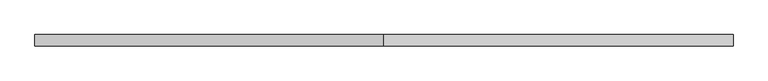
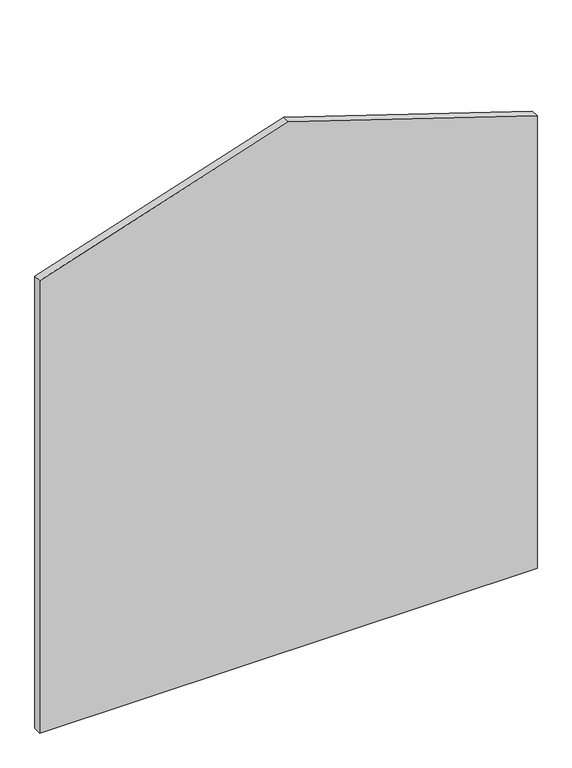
"""IFC4 building model written with IfcOpenShell, lengths in millimetres: plate geometry, Системная панель : ADSK_Cтеклопакет_25 мм."""

from ifc_helpers import new_model, si_unit, frame, origin, place, context, project, spatial, polyline, outline, extrude, source, transform, mapped, element, save


def plate_c8260542(model_context):
    return source(origin(), model_context, "Body", "SweptSolid", [
        extrude(outline(polyline([(0.0, -775.0227682), (0.0, 775.0227682), (1490.2662259, 775.0227682), (1742.0994852, -0.040308), (1490.2924196, -775.0227682), (0.0, -775.0227682)])), frame((0.0, -12.5, 0.0), z_axis=(0.0, 1.0, 0.0), x_axis=(0.0, 0.0, 1.0)), (0.0, 0.0, 1.0), 25.0),
    ])


if __name__ == "__main__":
    model = new_model("IFC4")
    model_context = context("Model", 3, world=origin())
    ifc_project = project(units=[si_unit("LENGTHUNIT", "METRE", prefix="MILLI")], contexts=[model_context])
    site = spatial("IfcSite", under=ifc_project)
    building = spatial("IfcBuilding", under=site)
    placement = place(None, origin())
    plate_shape = plate_c8260542(model_context)
    element("IfcPlate", 1, ObjectType="Системная панель : ADSK_Cтеклопакет_25 мм", at=placement, inside=building, context=model_context, shape_type="MappedRepresentation", body=[
        mapped(plate_shape, transform((0.0, 0.0, 0.0), x_axis=(1.0, 0.0, 0.0), y_axis=(0.0, 1.0, 0.0), z_axis=(0.0, 0.0, 1.0))),
    ])
    save(model, "model.ifc")
